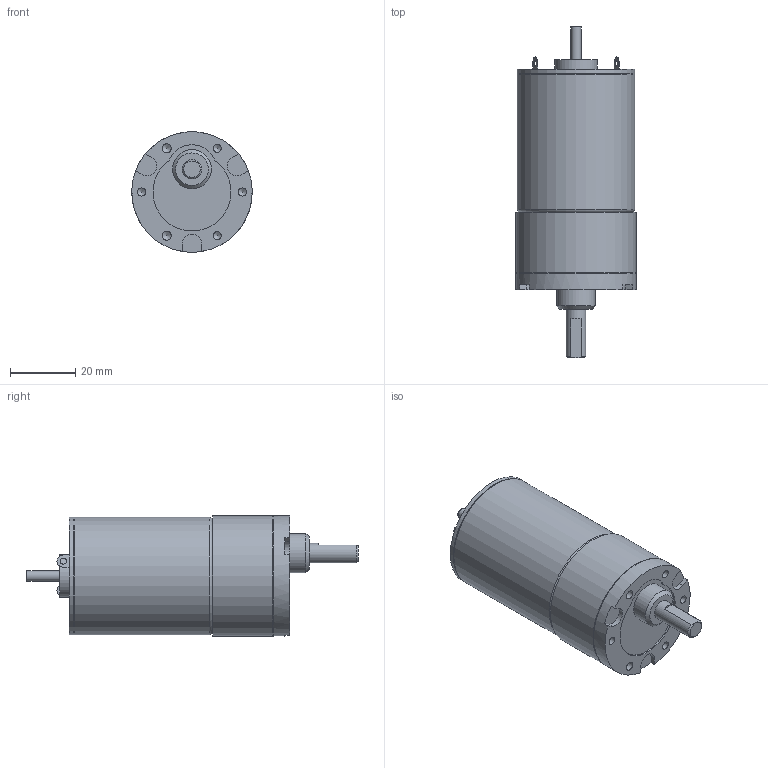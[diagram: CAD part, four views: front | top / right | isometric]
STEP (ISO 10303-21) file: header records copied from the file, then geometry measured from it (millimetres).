
FILE_DESCRIPTION((''),'2;1');
FILE_NAME('C:\Documents and Settings\SSEGAWA\デスクトップ\TP-3644L-KS-3.STP','2013-07-26T19:03:29',('SSEGAWA'),(''),'Autodesk Inventor 2010','Autodesk Inventor 2010','');
FILE_SCHEMA(('CONFIG_CONTROL_DESIGN'));
Length unit declared in the file: millimetre
Products named in the file (1): tp_3644l_ks_3_Shrinkwrap_1
Bounding box: 37 x 102 x 37 mm (x, y, z)
Volume: 71347.1 mm3; surface area: 11479 mm2
Topology: 5 solids, 5 shells, 80 faces, 181 edges, 121 vertices
Faces by surface type: plane 37, bspline 20, cylinder 19, cone 2, torus 2
Full cylindrical faces by diameter (mm): 3 x1, 3.175 x1, 3.5 x1, 6 x1, 12 x1, 13 x1, 35.6 x1, 36 x2, 36.6 x1, 37 x2
Entity records: 2254 total; most frequent: CARTESIAN_POINT 642, DIRECTION 311, ORIENTED_EDGE 242, AXIS2_PLACEMENT_3D 131, EDGE_LOOP 129, EDGE_CURVE 121, VERTEX_POINT 96, STYLED_ITEM 85
